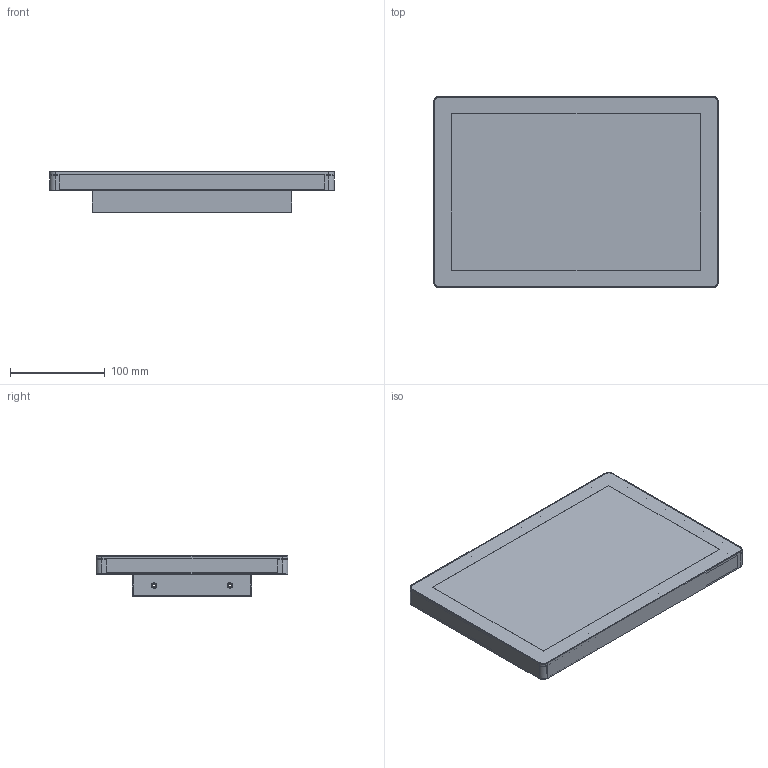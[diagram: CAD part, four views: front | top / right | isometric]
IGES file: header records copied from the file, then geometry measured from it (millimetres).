
Global section: file name: FIE121FMX-P; native system: AutoCAD 2019 – 繁體中文 (Traditional Chinese),62HAutode; preprocessor: sk Translation Framework DWG producer (atf_dwg_producer); organization: unknown; date: 20210615.143252; units: millimetre
Bounding box: 300.24 x 202.32 x 43 mm (x, y, z)
Volume: 621848 mm3; surface area: 551341.6 mm2
Topology: 10 solids, 10 shells, 950 faces, 2487 edges, 1654 vertices
Faces by surface type: bspline 950
